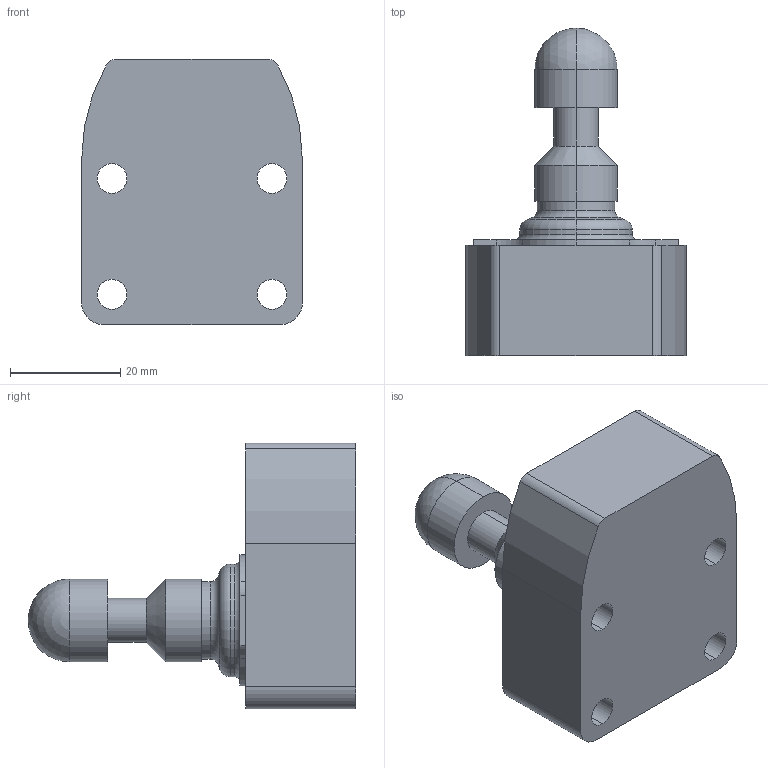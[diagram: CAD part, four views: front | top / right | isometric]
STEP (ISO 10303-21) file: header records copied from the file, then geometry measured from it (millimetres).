
FILE_DESCRIPTION (( 'STEP AP214' ), '1' );
FILE_NAME ('ZF_STEP_VN_NG-F3x.step', '2017-05-25T06:18:42', ( 'utente' ), ( 'Microsoft' ), 'SwSTEP 2.0', 'SolidWorks 2014', '' );
FILE_SCHEMA (( 'AUTOMOTIVE_DESIGN' ));
Length unit declared in the file: millimetre
Products named in the file (1): ZF_STEP_VN_NG-F3x
Bounding box: 40 x 59.4 x 48.1 mm (x, y, z)
Volume: 40751.3 mm3; surface area: 10154.3 mm2
Topology: 1 solids, 1 shells, 121 faces, 301 edges, 195 vertices
Faces by surface type: cylinder 55, plane 54, torus 6, cone 4, sphere 2
Entity records: 3645 total; most frequent: DIRECTION 665, CARTESIAN_POINT 612, ORIENTED_EDGE 594, EDGE_CURVE 297, AXIS2_PLACEMENT_3D 246, VERTEX_POINT 193, LINE 173, VECTOR 173
